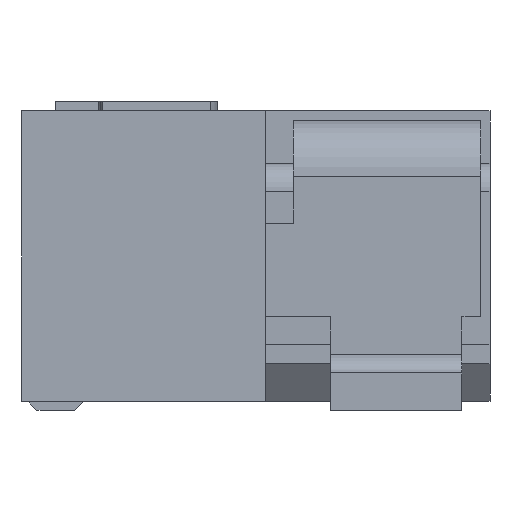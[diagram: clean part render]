
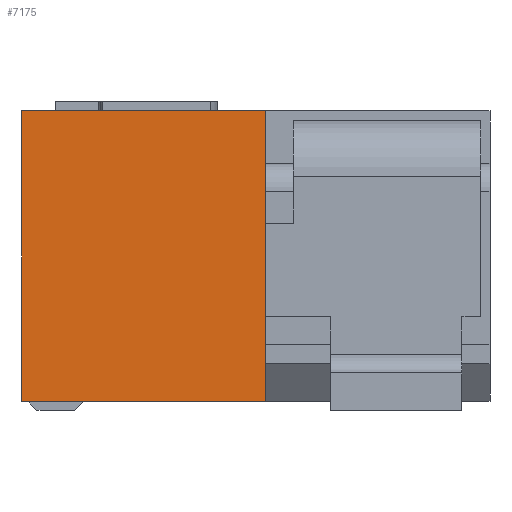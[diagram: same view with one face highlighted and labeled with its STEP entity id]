
A CAD part, left-side view. The second image highlights one B-rep face of the part: STEP entity #7175.
In plain terms, the highlighted planar face has unit normal (-1, 0, 0).
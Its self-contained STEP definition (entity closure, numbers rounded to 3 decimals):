
#312=PLANE('',#7486);
#652=FACE_OUTER_BOUND('',#1025,.T.);
#1025=EDGE_LOOP('',(#5809,#5810,#5811,#5812));
#1396=LINE('',#10478,#2245);
#1566=LINE('',#11247,#2415);
#1582=LINE('',#11278,#2431);
#1604=LINE('',#11317,#2453);
#2245=VECTOR('',#7975,1.);
#2415=VECTOR('',#8227,1.);
#2431=VECTOR('',#8245,1.);
#2453=VECTOR('',#8269,1.);
#3265=VERTEX_POINT('',#10475);
#3266=VERTEX_POINT('',#10477);
#3440=VERTEX_POINT('',#11246);
#3454=VERTEX_POINT('',#11276);
#4052=EDGE_CURVE('',#3265,#3266,#1396,.T.);
#4278=EDGE_CURVE('',#3266,#3440,#1566,.T.);
#4294=EDGE_CURVE('',#3265,#3454,#1582,.T.);
#4316=EDGE_CURVE('',#3454,#3440,#1604,.T.);
#5809=ORIENTED_EDGE('',*,*,#4316,.T.);
#5810=ORIENTED_EDGE('',*,*,#4278,.F.);
#5811=ORIENTED_EDGE('',*,*,#4052,.F.);
#5812=ORIENTED_EDGE('',*,*,#4294,.T.);
#7175=ADVANCED_FACE('',(#652),#312,.F.);
#7486=AXIS2_PLACEMENT_3D('',#11409,#8328,#8329);
#7975=DIRECTION('',(0.,-1.,0.));
#8227=DIRECTION('',(0.,0.,-1.));
#8245=DIRECTION('',(0.,0.,-1.));
#8269=DIRECTION('',(0.,-1.,0.));
#8328=DIRECTION('center_axis',(1.,0.,0.));
#8329=DIRECTION('ref_axis',(0.,0.,-1.));
#10475=CARTESIAN_POINT('',(-2.7,4.1,1.55));
#10477=CARTESIAN_POINT('',(-2.7,2.8,1.55));
#10478=CARTESIAN_POINT('',(-2.7,4.1,1.55));
#11246=CARTESIAN_POINT('',(-2.7,2.8,0.));
#11247=CARTESIAN_POINT('',(-2.7,2.8,1.55));
#11276=CARTESIAN_POINT('',(-2.7,4.1,0.));
#11278=CARTESIAN_POINT('',(-2.7,4.1,1.55));
#11317=CARTESIAN_POINT('',(-2.7,4.1,0.));
#11409=CARTESIAN_POINT('Origin',(-2.7,4.1,1.55));
